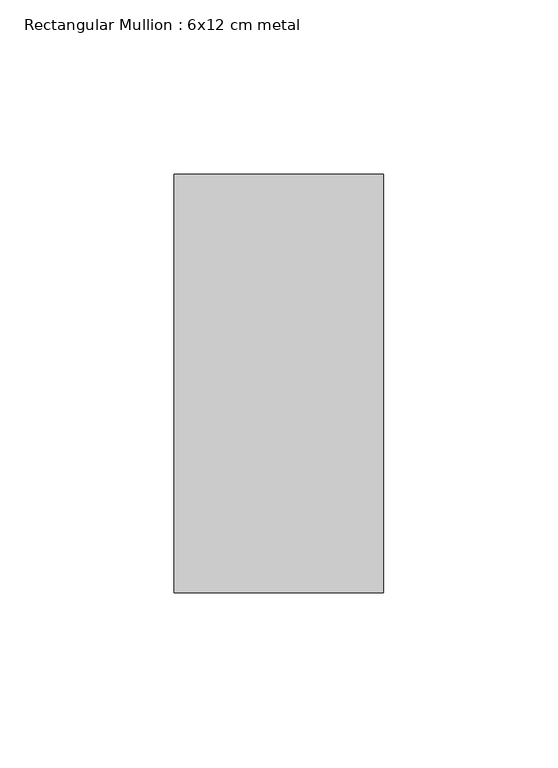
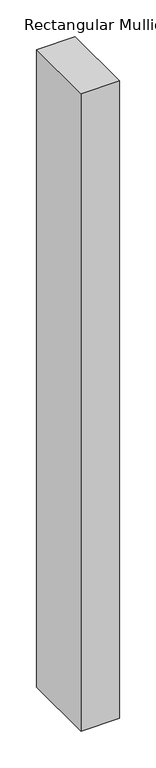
"""IFC4 building model written with IfcOpenShell, lengths in millimetres: member geometry, Rectangular Mullion : 6x12 cm metal."""

from ifc_helpers import new_model, si_unit, frame, origin, place, context, project, spatial, polyline, outline, extrude, source, transform, mapped, element, save


def rectangular_mullion_6x12_cm_metal_fd3afa6b(model_context):
    return source(origin(), model_context, "Body", "SweptSolid", [
        extrude(outline(polyline([(0.0, 60.0), (0.0, -60.0), (-60.0, -60.0), (-60.0, 60.0), (0.0, 60.0)])), frame((0.0, 0.0, -1054.2423059), z_axis=(0.0, 0.0, 1.0), x_axis=(1.0, 0.0, 0.0)), (0.0, 0.0, 1.0), 1054.2423059),
    ])


if __name__ == "__main__":
    model = new_model("IFC4")
    model_context = context("Model", 3, world=origin())
    ifc_project = project(units=[si_unit("LENGTHUNIT", "METRE", prefix="MILLI")], contexts=[model_context])
    site = spatial("IfcSite", under=ifc_project)
    building = spatial("IfcBuilding", under=site)
    placement = place(None, origin())
    rectangular_mullion_6x12_cm_metal_shape = rectangular_mullion_6x12_cm_metal_fd3afa6b(model_context)
    element("IfcMember", 1, ObjectType="Rectangular Mullion : 6x12 cm metal", at=placement, inside=building, context=model_context, shape_type="MappedRepresentation", body=[
        mapped(rectangular_mullion_6x12_cm_metal_shape, transform((0.0, 0.0, 0.0), x_axis=(1.0, 0.0, 0.0), y_axis=(0.0, 1.0, 0.0), z_axis=(0.0, 0.0, 1.0))),
    ])
    save(model, "model.ifc")
